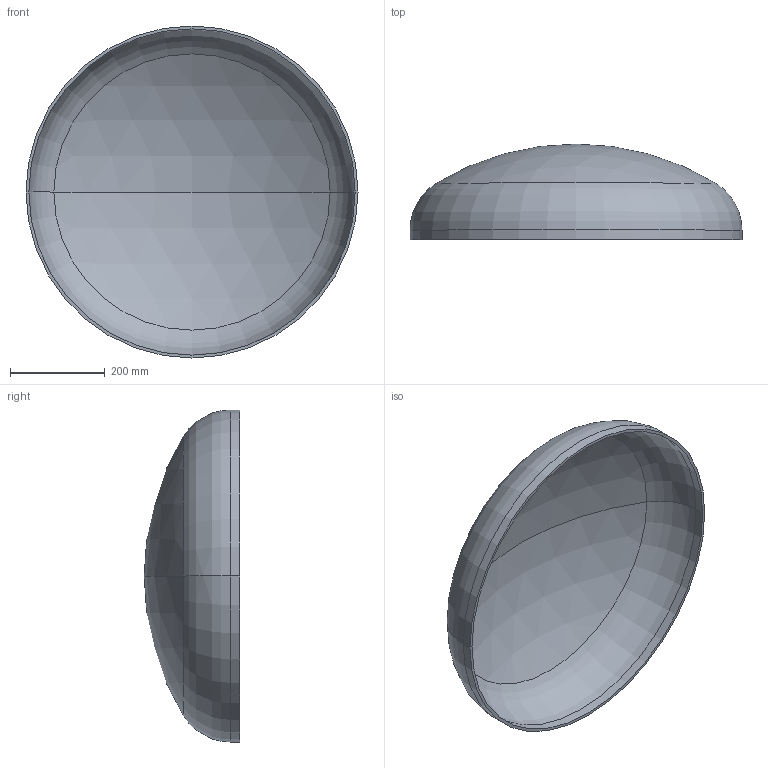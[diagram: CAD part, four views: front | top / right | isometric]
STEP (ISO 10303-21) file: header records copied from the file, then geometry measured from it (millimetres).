
FILE_DESCRIPTION (( 'STEP AP203' ), '1' );
FILE_NAME ('DIN 28013 Korbbogenform_-_Boden DIN 28013 - 700 x 20 - I - s=6.step', '2016-07-01T08:03:38', ( '' ), ( '' ), 'SwSTEP 2.0', 'SolidWorks 2013', '' );
FILE_SCHEMA (( 'CONFIG_CONTROL_DESIGN' ));
Length unit declared in the file: millimetre
Products named in the file (1): DIN 28013 Korbbogenform_-_Boden DIN 28013 - 700 x 20 - I - s=6
Bounding box: 700 x 201.63 x 700 mm (x, y, z)
Volume: 3436264.4 mm3; surface area: 1158578 mm2
Topology: 1 solids, 1 shells, 13 faces, 24 edges, 14 vertices
Faces by surface type: torus 4, cylinder 4, sphere 4, plane 1
Entity records: 407 total; most frequent: DIRECTION 72, CARTESIAN_POINT 52, ORIENTED_EDGE 48, AXIS2_PLACEMENT_3D 34, EDGE_CURVE 24, CIRCLE 20, VERTEX_POINT 14, EDGE_LOOP 14
